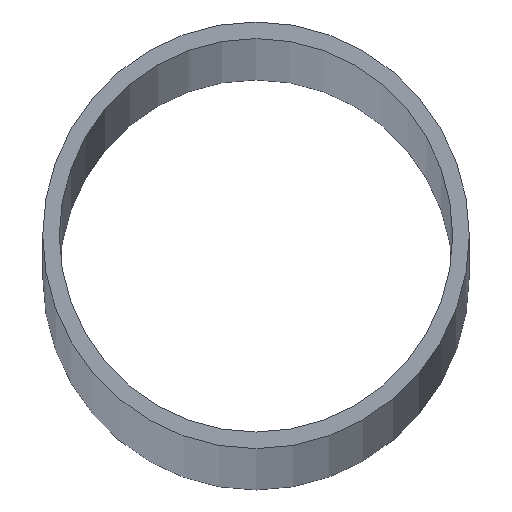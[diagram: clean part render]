
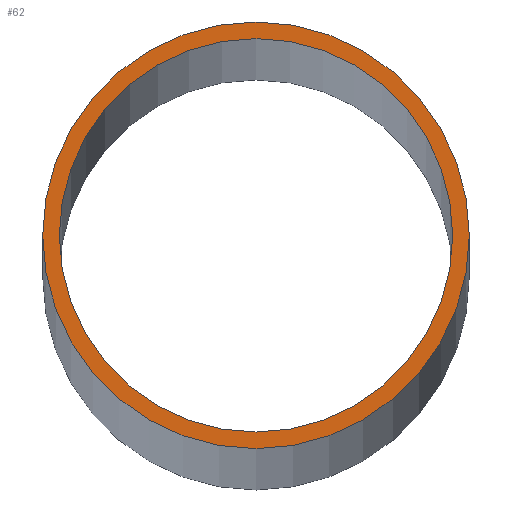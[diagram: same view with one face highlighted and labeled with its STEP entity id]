
A CAD part, top view. The second image highlights one B-rep face of the part: STEP entity #62.
In plain terms, the highlighted planar face has unit normal (0, 0, 1).
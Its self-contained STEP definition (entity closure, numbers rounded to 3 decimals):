
#15=PLANE('',#90);
#19=FACE_BOUND('',#31,.T.);
#23=FACE_OUTER_BOUND('',#30,.T.);
#30=EDGE_LOOP('',(#50));
#31=EDGE_LOOP('',(#51));
#32=CIRCLE('',#84,41.5);
#34=CIRCLE('',#87,45.);
#36=VERTEX_POINT('',#111);
#38=VERTEX_POINT('',#116);
#40=EDGE_CURVE('',#36,#36,#32,.T.);
#42=EDGE_CURVE('',#38,#38,#34,.T.);
#50=ORIENTED_EDGE('',*,*,#42,.T.);
#51=ORIENTED_EDGE('',*,*,#40,.T.);
#62=ADVANCED_FACE('',(#23,#19),#15,.T.);
#84=AXIS2_PLACEMENT_3D('',#112,#95,#96);
#87=AXIS2_PLACEMENT_3D('',#117,#101,#102);
#90=AXIS2_PLACEMENT_3D('',#121,#107,#108);
#95=DIRECTION('center_axis',(0.,0.,-1.));
#96=DIRECTION('ref_axis',(-1.,0.,0.));
#101=DIRECTION('center_axis',(0.,0.,1.));
#102=DIRECTION('ref_axis',(-1.,0.,0.));
#107=DIRECTION('center_axis',(0.,0.,1.));
#108=DIRECTION('ref_axis',(1.,0.,0.));
#111=CARTESIAN_POINT('',(41.5,0.,5000.));
#112=CARTESIAN_POINT('Origin',(0.,0.,5000.));
#116=CARTESIAN_POINT('',(45.,0.,5000.));
#117=CARTESIAN_POINT('Origin',(0.,0.,5000.));
#121=CARTESIAN_POINT('Origin',(0.,0.,5000.));
